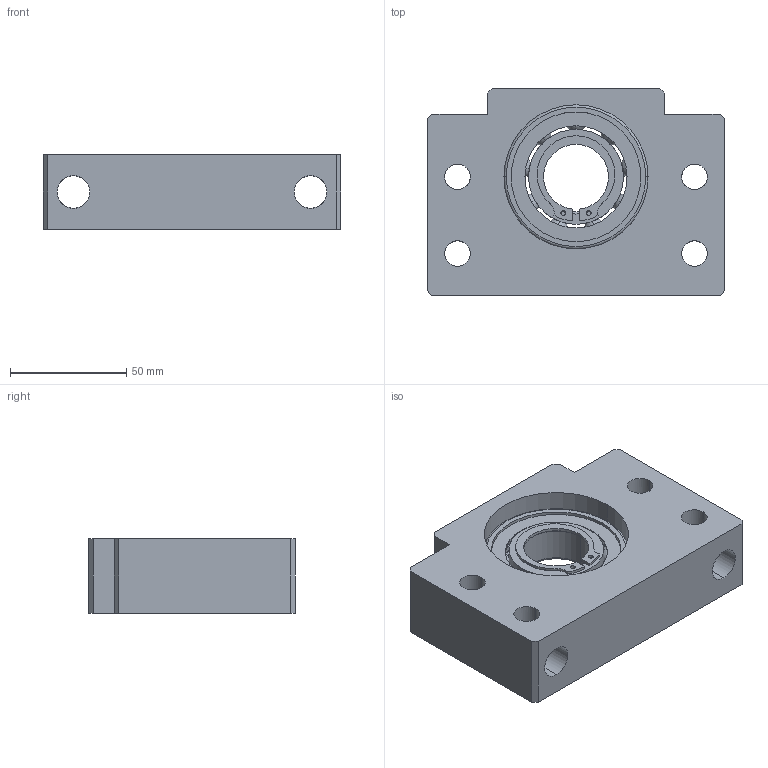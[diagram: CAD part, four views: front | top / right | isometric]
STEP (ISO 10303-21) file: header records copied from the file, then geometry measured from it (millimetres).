
FILE_DESCRIPTION (( 'STEP AP214' ), '1' );
FILE_NAME ('7.4014 BF30.STEP', '2026-03-06T07:06:40', ( '' ), ( '' ), 'SwSTEP 2.0', 'SolidWorks 2025', '' );
FILE_SCHEMA (( 'AUTOMOTIVE_DESIGN' ));
Length unit declared in the file: millimetre
Products named in the file (1): 7.4014 BF30
Bounding box: 128 x 89 x 32 mm (x, y, z)
Volume: 237012 mm3; surface area: 62771.4 mm2
Topology: 3 solids, 3 shells, 319 faces, 978 edges, 649 vertices
Faces by surface type: sphere 122, plane 77, cylinder 65, torus 38, bspline 17
Entity records: 24982 total; most frequent: CARTESIAN_POINT 13997, ORIENTED_EDGE 1956, DIRECTION 1583, EDGE_CURVE 978, AXIS2_PLACEMENT_3D 686, VERTEX_POINT 649, B_SPLINE_CURVE_WITH_KNOTS 384, CIRCLE 383
